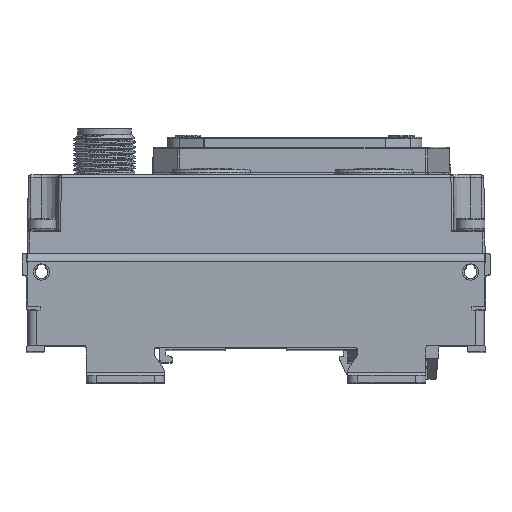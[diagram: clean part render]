
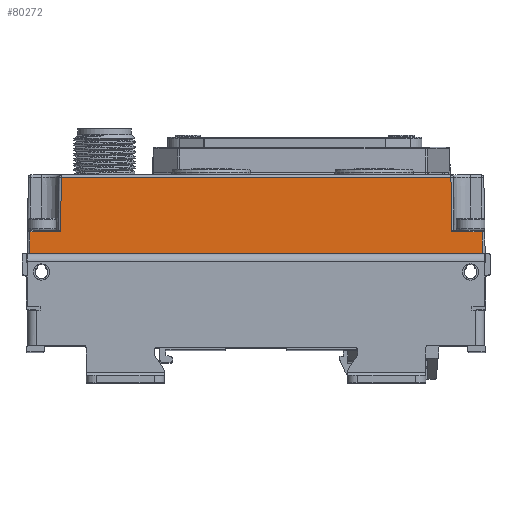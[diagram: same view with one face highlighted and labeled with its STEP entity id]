
A CAD part, top view. The second image highlights one B-rep face of the part: STEP entity #80272.
In plain terms, the highlighted planar face has unit normal (0, 0.018, 1).
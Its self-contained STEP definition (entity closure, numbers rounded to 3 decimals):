
#782 = EDGE_CURVE ( 'NONE', #117399, #92795, #168307, .T. ) ;
#4023 = EDGE_CURVE ( 'NONE', #113614, #85028, #37604, .T. ) ;
#5874 = CARTESIAN_POINT ( 'NONE',  ( -11.987, -83.986, 109.605 ) ) ;
#7543 = CARTESIAN_POINT ( 'NONE',  ( 26.322, -94.689, 109.792 ) ) ;
#8485 = DIRECTION ( 'NONE',  ( 0.009, 1., -0.017 ) ) ;
#9266 = EDGE_LOOP ( 'NONE', ( #74848, #70986, #162901, #83664, #145895, #78398, #126916, #156132, #190851, #184471, #136679, #60997 ) ) ;
#9560 = EDGE_CURVE ( 'NONE', #64990, #73878, #103176, .T. ) ;
#12159 = VERTEX_POINT ( 'NONE', #80241 ) ;
#13125 = VECTOR ( 'NONE', #8485, 1000. ) ;
#16163 = CARTESIAN_POINT ( 'NONE',  ( 67.205, -100.694, 109.897 ) ) ;
#20932 = DIRECTION ( 'NONE',  ( -0.017, -1., 0.017 ) ) ;
#22727 = DIRECTION ( 'NONE',  ( -1., 0., 0. ) ) ;
#25951 = CARTESIAN_POINT ( 'NONE',  ( -18.131, -94.689, 109.792 ) ) ;
#26675 = LINE ( 'NONE', #151146, #184010 ) ;
#27542 = CARTESIAN_POINT ( 'NONE',  ( 26.322, -100.694, 109.897 ) ) ;
#27604 = VECTOR ( 'NONE', #180133, 1000. ) ;
#28694 = CARTESIAN_POINT ( 'NONE',  ( -12.081, -94.689, 109.792 ) ) ;
#33242 = EDGE_CURVE ( 'NONE', #96807, #56841, #138161, .T. ) ;
#35860 = EDGE_CURVE ( 'NONE', #85028, #117399, #63819, .T. ) ;
#36154 = CARTESIAN_POINT ( 'NONE',  ( -18.236, -100.694, 109.897 ) ) ;
#37019 = EDGE_CURVE ( 'NONE', #96807, #12159, #85032, .T. ) ;
#37228 = DIRECTION ( 'NONE',  ( 1., 0., 0. ) ) ;
#37604 = LINE ( 'NONE', #144057, #113967 ) ;
#39930 = VECTOR ( 'NONE', #65792, 1000. ) ;
#44725 = FACE_OUTER_BOUND ( 'NONE', #9266, .T. ) ;
#56841 = VERTEX_POINT ( 'NONE', #28694 ) ;
#60997 = ORIENTED_EDGE ( 'NONE', *, *, #85495, .T. ) ;
#63245 = LINE ( 'NONE', #27542, #151610 ) ;
#63819 = LINE ( 'NONE', #143144, #39930 ) ;
#64990 = VERTEX_POINT ( 'NONE', #134106 ) ;
#65792 = DIRECTION ( 'NONE',  ( -1., 0., 0. ) ) ;
#67993 = CARTESIAN_POINT ( 'NONE',  ( 64.631, -83.986, 109.605 ) ) ;
#69594 = EDGE_CURVE ( 'NONE', #56841, #132514, #187243, .T. ) ;
#70986 = ORIENTED_EDGE ( 'NONE', *, *, #126345, .F. ) ;
#73878 = VERTEX_POINT ( 'NONE', #185599 ) ;
#74155 = DIRECTION ( 'NONE',  ( -1., 0., 0. ) ) ;
#74848 = ORIENTED_EDGE ( 'NONE', *, *, #9560, .T. ) ;
#78398 = ORIENTED_EDGE ( 'NONE', *, *, #33242, .F. ) ;
#79053 = CARTESIAN_POINT ( 'NONE',  ( 26.322, -83.986, 109.605 ) ) ;
#80241 = CARTESIAN_POINT ( 'NONE',  ( -18.236, -100.694, 109.897 ) ) ;
#80272 = ADVANCED_FACE ( 'NONE', ( #44725 ), #110812, .F. ) ;
#81981 = EDGE_CURVE ( 'NONE', #92795, #12159, #63245, .T. ) ;
#82028 = AXIS2_PLACEMENT_3D ( 'NONE', #36154, #125453, #142773 ) ;
#83664 = ORIENTED_EDGE ( 'NONE', *, *, #101767, .T. ) ;
#85028 = VERTEX_POINT ( 'NONE', #16163 ) ;
#85032 = LINE ( 'NONE', #160221, #194629 ) ;
#85495 = EDGE_CURVE ( 'NONE', #113614, #64990, #197571, .T. ) ;
#91723 = CARTESIAN_POINT ( 'NONE',  ( 64.631, -83.986, 109.605 ) ) ;
#92079 = CARTESIAN_POINT ( 'NONE',  ( -17.135, -100.694, 109.897 ) ) ;
#92795 = VERTEX_POINT ( 'NONE', #92079 ) ;
#96807 = VERTEX_POINT ( 'NONE', #25951 ) ;
#97045 = VECTOR ( 'NONE', #98723, 1000. ) ;
#98062 = EDGE_CURVE ( 'NONE', #162557, #155211, #163758, .T. ) ;
#98723 = DIRECTION ( 'NONE',  ( 0.009, -1., 0.017 ) ) ;
#99688 = CARTESIAN_POINT ( 'NONE',  ( 64.725, -94.689, 109.792 ) ) ;
#101767 = EDGE_CURVE ( 'NONE', #162557, #132514, #150962, .T. ) ;
#103176 = LINE ( 'NONE', #175639, #122211 ) ;
#106165 = CARTESIAN_POINT ( 'NONE',  ( 26.322, -100.694, 109.897 ) ) ;
#110812 = PLANE ( 'NONE',  #82028 ) ;
#112218 = CARTESIAN_POINT ( 'NONE',  ( -14.595, -100.694, 109.897 ) ) ;
#113614 = VERTEX_POINT ( 'NONE', #122115 ) ;
#113967 = VECTOR ( 'NONE', #22727, 1000. ) ;
#117399 = VERTEX_POINT ( 'NONE', #112218 ) ;
#122115 = CARTESIAN_POINT ( 'NONE',  ( 69.745, -100.694, 109.897 ) ) ;
#122211 = VECTOR ( 'NONE', #160954, 1000. ) ;
#125453 = DIRECTION ( 'NONE',  ( 0., -0.017, -1. ) ) ;
#126345 = EDGE_CURVE ( 'NONE', #155211, #73878, #26675, .T. ) ;
#126615 = CARTESIAN_POINT ( 'NONE',  ( 70.6, -100.694, 109.897 ) ) ;
#126916 = ORIENTED_EDGE ( 'NONE', *, *, #37019, .T. ) ;
#132514 = VERTEX_POINT ( 'NONE', #173015 ) ;
#133434 = VECTOR ( 'NONE', #174879, 1000. ) ;
#134106 = CARTESIAN_POINT ( 'NONE',  ( 70.88, -100.694, 109.897 ) ) ;
#136591 = VECTOR ( 'NONE', #155692, 1000. ) ;
#136679 = ORIENTED_EDGE ( 'NONE', *, *, #4023, .F. ) ;
#138161 = LINE ( 'NONE', #7543, #133434 ) ;
#142742 = VECTOR ( 'NONE', #37228, 1000. ) ;
#142773 = DIRECTION ( 'NONE',  ( 0., 1., -0.017 ) ) ;
#143144 = CARTESIAN_POINT ( 'NONE',  ( 26.322, -100.694, 109.897 ) ) ;
#144057 = CARTESIAN_POINT ( 'NONE',  ( 26.322, -100.694, 109.897 ) ) ;
#145895 = ORIENTED_EDGE ( 'NONE', *, *, #69594, .F. ) ;
#150962 = LINE ( 'NONE', #79053, #136591 ) ;
#151146 = CARTESIAN_POINT ( 'NONE',  ( 26.322, -94.689, 109.792 ) ) ;
#151610 = VECTOR ( 'NONE', #74155, 1000. ) ;
#155211 = VERTEX_POINT ( 'NONE', #99688 ) ;
#155692 = DIRECTION ( 'NONE',  ( -1., 0., 0. ) ) ;
#156132 = ORIENTED_EDGE ( 'NONE', *, *, #81981, .F. ) ;
#160221 = CARTESIAN_POINT ( 'NONE',  ( -18.184, -97.693, 109.844 ) ) ;
#160954 = DIRECTION ( 'NONE',  ( -0.017, 1., -0.017 ) ) ;
#162557 = VERTEX_POINT ( 'NONE', #91723 ) ;
#162901 = ORIENTED_EDGE ( 'NONE', *, *, #98062, .F. ) ;
#163758 = LINE ( 'NONE', #67993, #97045 ) ;
#168307 = LINE ( 'NONE', #106165, #27604 ) ;
#173015 = CARTESIAN_POINT ( 'NONE',  ( -11.987, -83.986, 109.605 ) ) ;
#174879 = DIRECTION ( 'NONE',  ( 1., 0., 0. ) ) ;
#175639 = CARTESIAN_POINT ( 'NONE',  ( 70.828, -97.693, 109.844 ) ) ;
#180133 = DIRECTION ( 'NONE',  ( -1., 0., 0. ) ) ;
#184010 = VECTOR ( 'NONE', #197125, 1000. ) ;
#184471 = ORIENTED_EDGE ( 'NONE', *, *, #35860, .F. ) ;
#185599 = CARTESIAN_POINT ( 'NONE',  ( 70.775, -94.689, 109.792 ) ) ;
#187243 = LINE ( 'NONE', #5874, #13125 ) ;
#190851 = ORIENTED_EDGE ( 'NONE', *, *, #782, .F. ) ;
#194629 = VECTOR ( 'NONE', #20932, 1000. ) ;
#197125 = DIRECTION ( 'NONE',  ( 1., 0., 0. ) ) ;
#197571 = LINE ( 'NONE', #126615, #142742 ) ;
